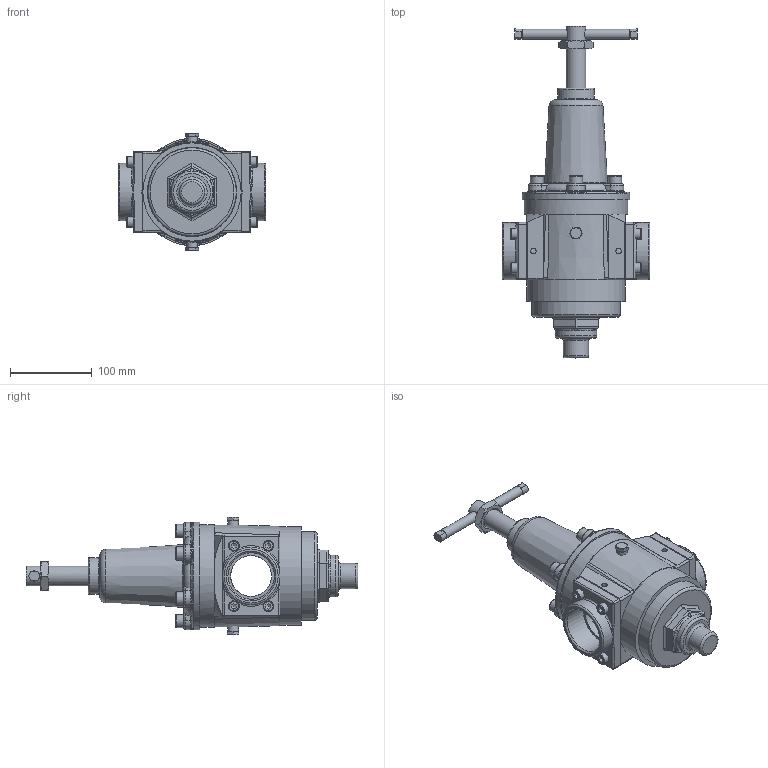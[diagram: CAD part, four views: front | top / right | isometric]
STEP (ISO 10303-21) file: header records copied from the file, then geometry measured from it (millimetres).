
FILE_DESCRIPTION(/* description */ (''),/* implementation_level */ '2;1');
FILE_NAME(/* name */ 'S51#T0F099A00.stp',/* time_stamp */ '2024-03-20T09:18:01+01:00',/* author */ ('FrancescoLazio'),/* organization */ (''),/* preprocessor_version */ 'ST-DEVELOPER v19.2',/* originating_system */ 'Autodesk Inventor 2024',/* authorisation */ '');
FILE_SCHEMA (('AUTOMOTIVE_DESIGN { 1 0 10303 214 3 1 1 }'));
Length unit declared in the file: millimetre
Products named in the file (17): Assieme7; P20364; C43007; C43007_1; 0DNH1500; P21037; P34014; P34014_1; P34088; 0DC10616; 0DC10513; 0DC10616_1; 0DC10616_2; 0DC10616_3; 0DC10616_4; 0DC10616_5; P37045
Assembly tree (24 placements, depth 3):
  Assieme7
    P20364
    C43007
      C43007_1
      0DNH1500
    P21037
    P34014
    P34014_1
    P34088
    0DC10616
    0DC10513  x8
    0DC10616_1
    0DC10616_2
    0DC10616_3
    0DC10616_4
    0DC10616_5
    P37045  x2
Bounding box: 180 x 405.5 x 143.85 mm (x, y, z)
Volume: 1033598.3 mm3; surface area: 341306 mm2
Topology: 25 solids, 25 shells, 773 faces, 1910 edges, 1187 vertices
Faces by surface type: plane 310, cylinder 191, torus 93, cone 92, bspline 78, sphere 9
Full cylindrical faces by diameter (mm): 6.647 x12, 8 x8, 8.376 x6, 9 x8, 10 x7, 11 x2, 11.3 x6, 11.445 x2, 12 x1, 12.3 x1, 13 x8, 13.157 x2, 16 x6, 20 x1, 21 x1, 22 x1, 24 x2, 30 x2, 31 x1, 41.6 x1, 45 x1, 50 x2, 51 x1, 54 x1, 56.656 x2, 58 x1, 59.7 x1, 61.5 x2, 67.2 x2, 70 x2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
Entity records: 27777 total; most frequent: CARTESIAN_POINT 12570, ORIENTED_EDGE 3012, DIRECTION 2993, EDGE_CURVE 1506, AXIS2_PLACEMENT_3D 1239, VERTEX_POINT 957, EDGE_LOOP 715, FACE_OUTER_BOUND 620
